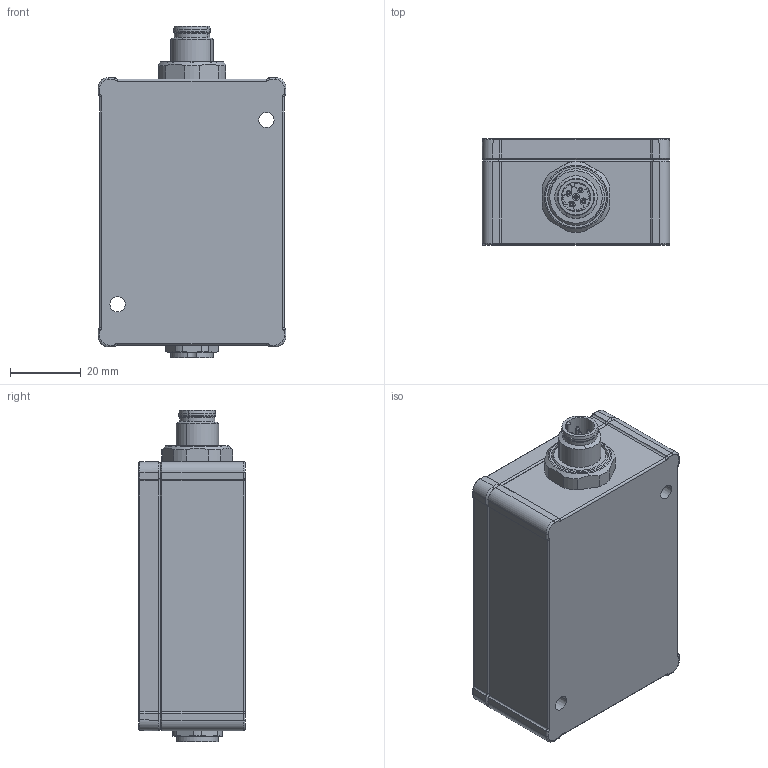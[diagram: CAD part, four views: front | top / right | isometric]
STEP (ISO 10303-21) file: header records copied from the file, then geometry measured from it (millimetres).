
FILE_DESCRIPTION((''),'2;1');
FILE_NAME('0000195154_SW0001','2020-03-02T11:47:11',('11000775'),(''),'CREO PARAMETRIC BY PTC INC, 2019030','CREO PARAMETRIC BY PTC INC, 2019030','');
FILE_SCHEMA(('AUTOMOTIVE_DESIGN { 1 0 10303 214 1 1 1 1 }'));
Length unit declared in the file: millimetre
Products named in the file (1): 0000195154_SW0001
Bounding box: 53 x 30 x 93.58 mm (x, y, z)
Volume: 115511.5 mm3; surface area: 19246 mm2
Topology: 1 solids, 1 shells, 701 faces, 1755 edges, 1099 vertices
Faces by surface type: plane 305, cylinder 161, cone 121, torus 43, bspline 36, extrusion 35
Entity records: 39061 total; most frequent: CARTESIAN_POINT 11358, ORIENTED_EDGE 3490, DIRECTION 3317, PRESENTATION_STYLE_ASSIGNMENT 2486, STYLED_ITEM 1785, CURVE_STYLE 1784, EDGE_CURVE 1745, AXIS2_PLACEMENT_3D 1191
